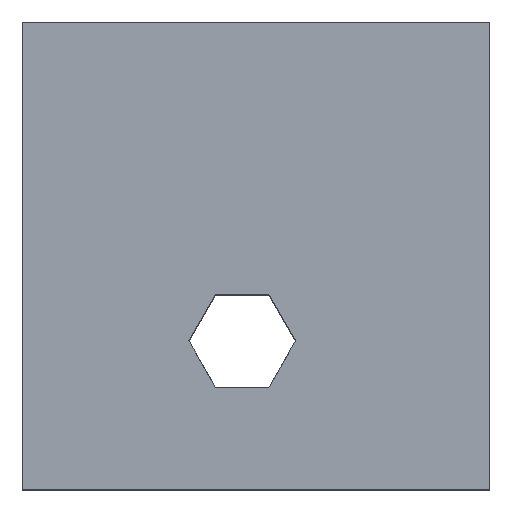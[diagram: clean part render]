
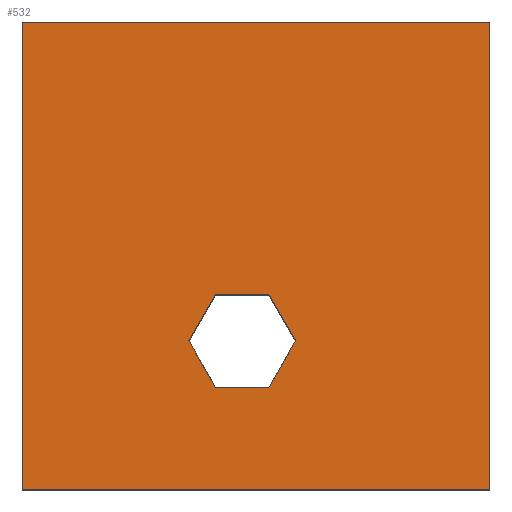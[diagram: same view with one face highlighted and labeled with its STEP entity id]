
A CAD part, top view. The second image highlights one B-rep face of the part: STEP entity #532.
In plain terms, the highlighted planar face has unit normal (0, 0, 1).
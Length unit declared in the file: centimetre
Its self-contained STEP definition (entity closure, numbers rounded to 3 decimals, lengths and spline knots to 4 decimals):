
#10 = CARTESIAN_POINT ( 'NONE',  ( 584.8801, 317.3384, 1000. ) ) ;
#40 = CARTESIAN_POINT ( 'NONE',  ( 1000., 0., 1000. ) ) ;
#48 = PLANE ( 'NONE',  #799 ) ;
#146 = DIRECTION ( 'NONE',  ( 0.503, -0.864, 0. ) ) ;
#205 = EDGE_CURVE ( 'NONE', #2869, #931, #891, .T. ) ;
#207 = VERTEX_POINT ( 'NONE', #2057 ) ;
#217 = DIRECTION ( 'NONE',  ( 1., 0., 0. ) ) ;
#239 = ORIENTED_EDGE ( 'NONE', *, *, #630, .T. ) ;
#282 = LINE ( 'NONE', #314, #356 ) ;
#289 = VERTEX_POINT ( 'NONE', #1587 ) ;
#314 = CARTESIAN_POINT ( 'NONE',  ( 1000., 1000., 1000. ) ) ;
#326 = EDGE_CURVE ( 'NONE', #289, #722, #486, .T. ) ;
#329 = CARTESIAN_POINT ( 'NONE',  ( 0., 0., 1000. ) ) ;
#356 = VECTOR ( 'NONE', #1025, 100. ) ;
#361 = EDGE_CURVE ( 'NONE', #2068, #489, #2143, .T. ) ;
#393 = VECTOR ( 'NONE', #1866, 100. ) ;
#412 = ORIENTED_EDGE ( 'NONE', *, *, #361, .T. ) ;
#430 = ORIENTED_EDGE ( 'NONE', *, *, #967, .T. ) ;
#486 = LINE ( 'NONE', #1378, #985 ) ;
#489 = VERTEX_POINT ( 'NONE', #2369 ) ;
#494 = LINE ( 'NONE', #2301, #2483 ) ;
#515 = DIRECTION ( 'NONE',  ( 1., 0., 0. ) ) ;
#532 = ADVANCED_FACE ( 'NONE', ( #1225, #823 ), #48, .T. ) ;
#536 = VERTEX_POINT ( 'NONE', #1451 ) ;
#539 = VECTOR ( 'NONE', #2494, 100. ) ;
#542 = EDGE_CURVE ( 'NONE', #1122, #536, #282, .T. ) ;
#572 = EDGE_CURVE ( 'NONE', #207, #2068, #717, .T. ) ;
#580 = EDGE_CURVE ( 'NONE', #716, #207, #1598, .T. ) ;
#588 = VECTOR ( 'NONE', #1037, 100. ) ;
#630 = EDGE_CURVE ( 'NONE', #931, #1122, #2847, .T. ) ;
#649 = CARTESIAN_POINT ( 'NONE',  ( 0., 1000., 1000. ) ) ;
#704 = CARTESIAN_POINT ( 'NONE',  ( 0., 0., 1000. ) ) ;
#716 = VERTEX_POINT ( 'NONE', #10 ) ;
#717 = LINE ( 'NONE', #2081, #1826 ) ;
#722 = VERTEX_POINT ( 'NONE', #732 ) ;
#732 = CARTESIAN_POINT ( 'NONE',  ( 527.4974, 415.8235, 1000. ) ) ;
#799 = AXIS2_PLACEMENT_3D ( 'NONE', #329, #998, #515 ) ;
#823 = FACE_OUTER_BOUND ( 'NONE', #1958, .T. ) ;
#891 = LINE ( 'NONE', #649, #539 ) ;
#931 = VERTEX_POINT ( 'NONE', #2608 ) ;
#937 = CARTESIAN_POINT ( 'NONE',  ( 413.2542, 218.2501, 1000. ) ) ;
#967 = EDGE_CURVE ( 'NONE', #489, #289, #494, .T. ) ;
#985 = VECTOR ( 'NONE', #1148, 100. ) ;
#998 = DIRECTION ( 'NONE',  ( 0., 0., 1. ) ) ;
#1025 = DIRECTION ( 'NONE',  ( 0., 1., 0. ) ) ;
#1037 = DIRECTION ( 'NONE',  ( -1., 0., 0. ) ) ;
#1122 = VERTEX_POINT ( 'NONE', #40 ) ;
#1148 = DIRECTION ( 'NONE',  ( 1., 0., 0. ) ) ;
#1193 = ORIENTED_EDGE ( 'NONE', *, *, #2553, .T. ) ;
#1225 = FACE_BOUND ( 'NONE', #2691, .T. ) ;
#1226 = ORIENTED_EDGE ( 'NONE', *, *, #572, .T. ) ;
#1267 = CARTESIAN_POINT ( 'NONE',  ( 0., 1000., 1000. ) ) ;
#1287 = VECTOR ( 'NONE', #217, 100. ) ;
#1378 = CARTESIAN_POINT ( 'NONE',  ( 413.2542, 415.8235, 1000. ) ) ;
#1451 = CARTESIAN_POINT ( 'NONE',  ( 1000., 1000., 1000. ) ) ;
#1587 = CARTESIAN_POINT ( 'NONE',  ( 413.2542, 415.8235, 1000. ) ) ;
#1598 = LINE ( 'NONE', #1849, #2217 ) ;
#1826 = VECTOR ( 'NONE', #1888, 100. ) ;
#1849 = CARTESIAN_POINT ( 'NONE',  ( 584.8801, 317.3384, 1000. ) ) ;
#1866 = DIRECTION ( 'NONE',  ( -0.498, 0.867, 0. ) ) ;
#1888 = DIRECTION ( 'NONE',  ( -1., 0., 0. ) ) ;
#1916 = ORIENTED_EDGE ( 'NONE', *, *, #326, .T. ) ;
#1918 = CARTESIAN_POINT ( 'NONE',  ( 413.2542, 218.2501, 1000. ) ) ;
#1958 = EDGE_LOOP ( 'NONE', ( #2859, #239, #1987, #3018 ) ) ;
#1987 = ORIENTED_EDGE ( 'NONE', *, *, #542, .T. ) ;
#1999 = VECTOR ( 'NONE', #146, 100. ) ;
#2002 = CARTESIAN_POINT ( 'NONE',  ( 0., 1000., 1000. ) ) ;
#2008 = CARTESIAN_POINT ( 'NONE',  ( 527.4974, 415.8235, 1000. ) ) ;
#2057 = CARTESIAN_POINT ( 'NONE',  ( 527.4974, 218.2501, 1000. ) ) ;
#2062 = DIRECTION ( 'NONE',  ( 0.5, 0.866, 0. ) ) ;
#2068 = VERTEX_POINT ( 'NONE', #1918 ) ;
#2081 = CARTESIAN_POINT ( 'NONE',  ( 527.4974, 218.2501, 1000. ) ) ;
#2143 = LINE ( 'NONE', #937, #393 ) ;
#2204 = LINE ( 'NONE', #1267, #588 ) ;
#2217 = VECTOR ( 'NONE', #2613, 100. ) ;
#2301 = CARTESIAN_POINT ( 'NONE',  ( 356.3938, 317.3384, 1000. ) ) ;
#2369 = CARTESIAN_POINT ( 'NONE',  ( 356.3938, 317.3384, 1000. ) ) ;
#2460 = ORIENTED_EDGE ( 'NONE', *, *, #580, .T. ) ;
#2483 = VECTOR ( 'NONE', #2062, 100. ) ;
#2494 = DIRECTION ( 'NONE',  ( 0., -1., 0. ) ) ;
#2553 = EDGE_CURVE ( 'NONE', #722, #716, #2692, .T. ) ;
#2608 = CARTESIAN_POINT ( 'NONE',  ( 0., 0., 1000. ) ) ;
#2613 = DIRECTION ( 'NONE',  ( -0.501, -0.865, 0. ) ) ;
#2691 = EDGE_LOOP ( 'NONE', ( #430, #1916, #1193, #2460, #1226, #412 ) ) ;
#2692 = LINE ( 'NONE', #2008, #1999 ) ;
#2847 = LINE ( 'NONE', #704, #1287 ) ;
#2859 = ORIENTED_EDGE ( 'NONE', *, *, #205, .T. ) ;
#2869 = VERTEX_POINT ( 'NONE', #2002 ) ;
#2893 = EDGE_CURVE ( 'NONE', #536, #2869, #2204, .T. ) ;
#3018 = ORIENTED_EDGE ( 'NONE', *, *, #2893, .T. ) ;
